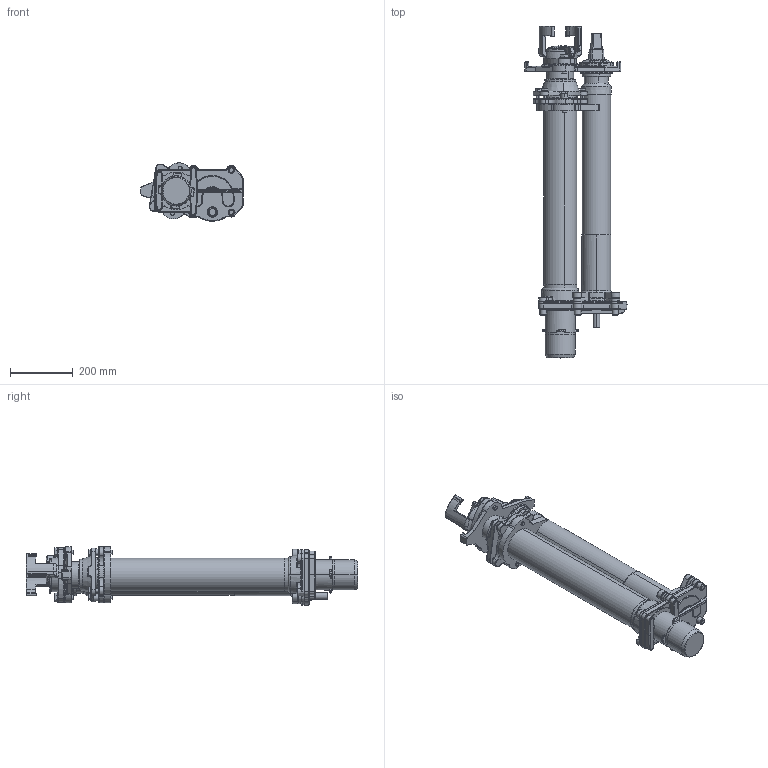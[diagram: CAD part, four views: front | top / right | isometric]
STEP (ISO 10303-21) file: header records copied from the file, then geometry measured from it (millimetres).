
FILE_DESCRIPTION (( 'STEP AP203' ), '1' );
FILE_NAME ('H-UFH RD1,25 Spitz_203.STEP', '2019-05-06T09:25:51', ( '' ), ( '' ), 'SwSTEP 2.0', 'SolidWorks 2019', '' );
FILE_SCHEMA (( 'CONFIG_CONTROL_DESIGN' ));
Length unit declared in the file: millimetre
Products named in the file (1): H-UFH RD1,25 Spitz_203
Bounding box: 324.28 x 1055.23 x 185.36 mm (x, y, z)
Volume: 15889503.2 mm3; surface area: 947509.1 mm2
Topology: 2 solids, 2 shells, 3077 faces, 8143 edges, 4939 vertices
Faces by surface type: bspline 970, cylinder 900, plane 660, torus 319, cone 179, sphere 49
Entity records: 153939 total; most frequent: CARTESIAN_POINT 85575, ORIENTED_EDGE 16050, DIRECTION 12361, EDGE_CURVE 8025, AXIS2_PLACEMENT_3D 5113, VERTEX_POINT 4924, EDGE_LOOP 3163, FACE_OUTER_BOUND 3077
